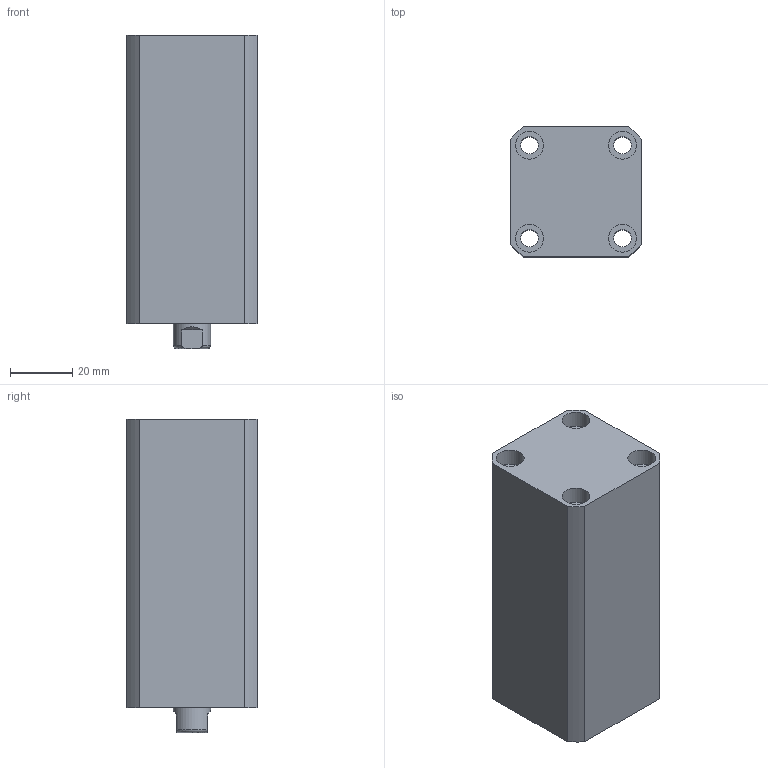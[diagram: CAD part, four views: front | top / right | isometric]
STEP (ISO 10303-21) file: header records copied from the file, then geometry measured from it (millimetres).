
FILE_DESCRIPTION(/* description */ (''),/* implementation_level */ '2;1');
FILE_NAME(/* name */ 'CHTB-sd20x50n.stp',/* time_stamp */ '2022-04-29T15:17:53+08:00',/* author */ (''),/* organization */ (''),/* preprocessor_version */ 'ST-DEVELOPER v16.7',/* originating_system */ 'SIEMENS PLM Software NX 12.0',/* authorisation */ '');
FILE_SCHEMA (('AUTOMOTIVE_DESIGN { 1 0 10303 214 3 1 1 1 }'));
Length unit declared in the file: millimetre
Products named in the file (1): CHTB-sd20x50n
Bounding box: 42 x 42 x 101 mm (x, y, z)
Volume: 137588.9 mm3; surface area: 41165.1 mm2
Topology: 3 solids, 3 shells, 438 faces, 1178 edges, 791 vertices
Faces by surface type: plane 263, extrusion 95, cylinder 48, torus 18, bspline 9, cone 5
Full cylindrical faces by diameter (mm): 3 x4, 5.6 x4, 6.8 x1, 7.9 x2, 9 x8, 12 x2, 16 x2, 18 x1, 20 x5, 27 x9
Entity records: 20941 total; most frequent: CARTESIAN_POINT 8578, ORIENTED_EDGE 2176, DIRECTION 1668, EDGE_CURVE 1088, VECTOR 822, VERTEX_POINT 768, LINE 727, EDGE_LOOP 543
